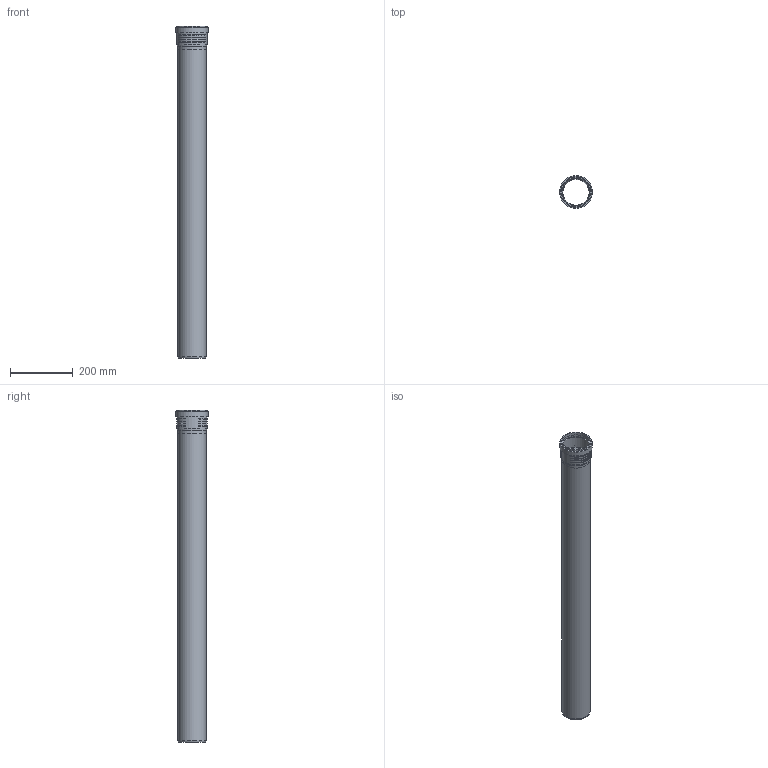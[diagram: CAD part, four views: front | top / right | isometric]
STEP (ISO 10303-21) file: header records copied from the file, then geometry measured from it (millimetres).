
FILE_DESCRIPTION(/* description */ (''),/* implementation_level */ '2;1');
FILE_NAME(/* name */ 'Z:\Geberit\Export\NewStep\390404.stp',/* time_stamp */ '2014-04-02T08:12:17+02:00',/* author */ ('ML'),/* organization */ (''),/* preprocessor_version */ 'ST-DEVELOPER v15.2',/* originating_system */ 'Autodesk Inventor 2014',/* authorisation */ '');
FILE_SCHEMA (('AUTOMOTIVE_DESIGN { 1 0 10303 214 3 1 1 }'));
Length unit declared in the file: millimetre
Products named in the file (3): 861434; 861584ohne; 390404
Bounding box: 105.4 x 105.4 x 1061 mm (x, y, z)
Volume: 923577.4 mm3; surface area: 600062.3 mm2
Topology: 2 solids, 2 shells, 47 faces, 104 edges, 71 vertices
Faces by surface type: torus 24, cylinder 11, plane 10, cone 2
Full cylindrical faces by diameter (mm): 84 x2, 90.2 x2, 91 x2, 94.1 x1, 97.2 x2, 99.2 x1, 105.4 x1
Entity records: 2003 total; most frequent: CARTESIAN_POINT 962, DIRECTION 182, ORIENTED_EDGE 174, AXIS2_PLACEMENT_3D 91, EDGE_CURVE 87, EDGE_LOOP 78, VERTEX_POINT 71, STYLED_ITEM 49
